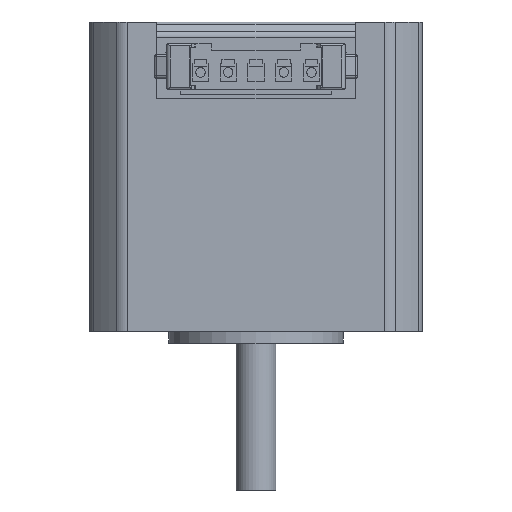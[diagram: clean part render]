
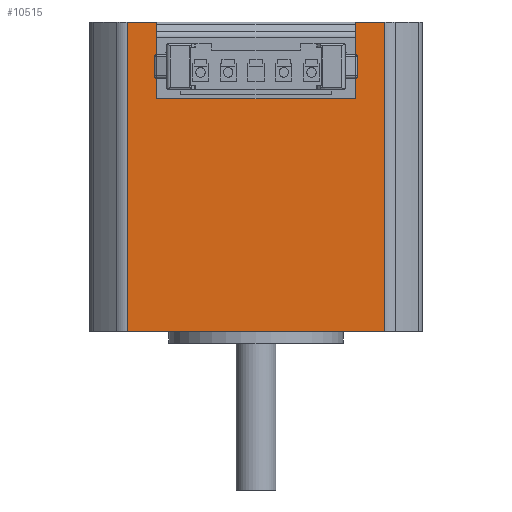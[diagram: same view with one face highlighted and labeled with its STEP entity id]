
A CAD part, front view. The second image highlights one B-rep face of the part: STEP entity #10515.
In plain terms, the highlighted planar face has unit normal (0, -1, 0).
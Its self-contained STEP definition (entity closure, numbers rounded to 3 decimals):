
#124 = CARTESIAN_POINT ( 'NONE',  ( -16.248, -21., 29.3 ) ) ;
#473 = CARTESIAN_POINT ( 'NONE',  ( 16.248, -21., 39. ) ) ;
#504 = LINE ( 'NONE', #10663, #7871 ) ;
#642 = LINE ( 'NONE', #11679, #5259 ) ;
#913 = VERTEX_POINT ( 'NONE', #2735 ) ;
#1035 = EDGE_CURVE ( 'NONE', #8583, #11839, #4527, .T. ) ;
#1230 = ORIENTED_EDGE ( 'NONE', *, *, #1035, .F. ) ;
#1294 = VECTOR ( 'NONE', #2106, 1000. ) ;
#1411 = ORIENTED_EDGE ( 'NONE', *, *, #7552, .T. ) ;
#1792 = EDGE_CURVE ( 'NONE', #6996, #4179, #3740, .T. ) ;
#2000 = PLANE ( 'NONE',  #10048 ) ;
#2030 = VECTOR ( 'NONE', #10730, 1000. ) ;
#2106 = DIRECTION ( 'NONE',  ( 0., 0., -1. ) ) ;
#2631 = LINE ( 'NONE', #4748, #2030 ) ;
#2660 = CARTESIAN_POINT ( 'NONE',  ( 12.5, -21., 29.3 ) ) ;
#2735 = CARTESIAN_POINT ( 'NONE',  ( -16.248, -21., 0. ) ) ;
#2839 = DIRECTION ( 'NONE',  ( 1., 0., 0. ) ) ;
#2886 = LINE ( 'NONE', #5854, #5698 ) ;
#3090 = ORIENTED_EDGE ( 'NONE', *, *, #6139, .T. ) ;
#3236 = DIRECTION ( 'NONE',  ( 1., 0., 0. ) ) ;
#3482 = VERTEX_POINT ( 'NONE', #4418 ) ;
#3721 = EDGE_CURVE ( 'NONE', #11839, #7097, #2886, .T. ) ;
#3740 = LINE ( 'NONE', #12140, #1294 ) ;
#3998 = EDGE_CURVE ( 'NONE', #3482, #6996, #642, .T. ) ;
#4179 = VERTEX_POINT ( 'NONE', #10748 ) ;
#4418 = CARTESIAN_POINT ( 'NONE',  ( -16.248, -21., 39. ) ) ;
#4477 = VECTOR ( 'NONE', #12168, 1000. ) ;
#4527 = LINE ( 'NONE', #12756, #8872 ) ;
#4748 = CARTESIAN_POINT ( 'NONE',  ( 12.5, -21., 0. ) ) ;
#4945 = CARTESIAN_POINT ( 'NONE',  ( 12.5, -21., 39. ) ) ;
#4985 = DIRECTION ( 'NONE',  ( -1., 0., 0. ) ) ;
#5093 = ORIENTED_EDGE ( 'NONE', *, *, #3998, .F. ) ;
#5127 = LINE ( 'NONE', #10321, #4477 ) ;
#5221 = ORIENTED_EDGE ( 'NONE', *, *, #11453, .F. ) ;
#5259 = VECTOR ( 'NONE', #2839, 1000. ) ;
#5515 = DIRECTION ( 'NONE',  ( 1., 0., 0. ) ) ;
#5698 = VECTOR ( 'NONE', #9988, 1000. ) ;
#5854 = CARTESIAN_POINT ( 'NONE',  ( 16.248, -21., 29.3 ) ) ;
#5906 = FACE_OUTER_BOUND ( 'NONE', #12907, .T. ) ;
#6139 = EDGE_CURVE ( 'NONE', #913, #7097, #504, .T. ) ;
#6776 = CARTESIAN_POINT ( 'NONE',  ( -16.248, -21., 29.3 ) ) ;
#6847 = DIRECTION ( 'NONE',  ( 0., 1., 0. ) ) ;
#6996 = VERTEX_POINT ( 'NONE', #12914 ) ;
#7097 = VERTEX_POINT ( 'NONE', #7183 ) ;
#7183 = CARTESIAN_POINT ( 'NONE',  ( 16.248, -21., 0. ) ) ;
#7552 = EDGE_CURVE ( 'NONE', #3482, #913, #5127, .T. ) ;
#7714 = ORIENTED_EDGE ( 'NONE', *, *, #3721, .F. ) ;
#7871 = VECTOR ( 'NONE', #10541, 1000. ) ;
#8583 = VERTEX_POINT ( 'NONE', #4945 ) ;
#8755 = EDGE_CURVE ( 'NONE', #8583, #9731, #2631, .T. ) ;
#8790 = ORIENTED_EDGE ( 'NONE', *, *, #8755, .T. ) ;
#8872 = VECTOR ( 'NONE', #5515, 1000. ) ;
#9223 = LINE ( 'NONE', #124, #11470 ) ;
#9651 = ORIENTED_EDGE ( 'NONE', *, *, #1792, .F. ) ;
#9731 = VERTEX_POINT ( 'NONE', #2660 ) ;
#9988 = DIRECTION ( 'NONE',  ( 0., 0., -1. ) ) ;
#10048 = AXIS2_PLACEMENT_3D ( 'NONE', #6776, #6847, #4985 ) ;
#10321 = CARTESIAN_POINT ( 'NONE',  ( -16.248, -21., 29.3 ) ) ;
#10515 = ADVANCED_FACE ( 'NONE', ( #5906 ), #2000, .F. ) ;
#10541 = DIRECTION ( 'NONE',  ( 1., 0., 0. ) ) ;
#10663 = CARTESIAN_POINT ( 'NONE',  ( -16.248, -21., 0. ) ) ;
#10730 = DIRECTION ( 'NONE',  ( 0., 0., -1. ) ) ;
#10748 = CARTESIAN_POINT ( 'NONE',  ( -12.5, -21., 29.3 ) ) ;
#11453 = EDGE_CURVE ( 'NONE', #4179, #9731, #9223, .T. ) ;
#11470 = VECTOR ( 'NONE', #3236, 1000. ) ;
#11679 = CARTESIAN_POINT ( 'NONE',  ( -16.248, -21., 39. ) ) ;
#11839 = VERTEX_POINT ( 'NONE', #473 ) ;
#12140 = CARTESIAN_POINT ( 'NONE',  ( -12.5, -21., 0. ) ) ;
#12168 = DIRECTION ( 'NONE',  ( 0., 0., -1. ) ) ;
#12756 = CARTESIAN_POINT ( 'NONE',  ( -16.248, -21., 39. ) ) ;
#12907 = EDGE_LOOP ( 'NONE', ( #1411, #3090, #7714, #1230, #8790, #5221, #9651, #5093 ) ) ;
#12914 = CARTESIAN_POINT ( 'NONE',  ( -12.5, -21., 39. ) ) ;
